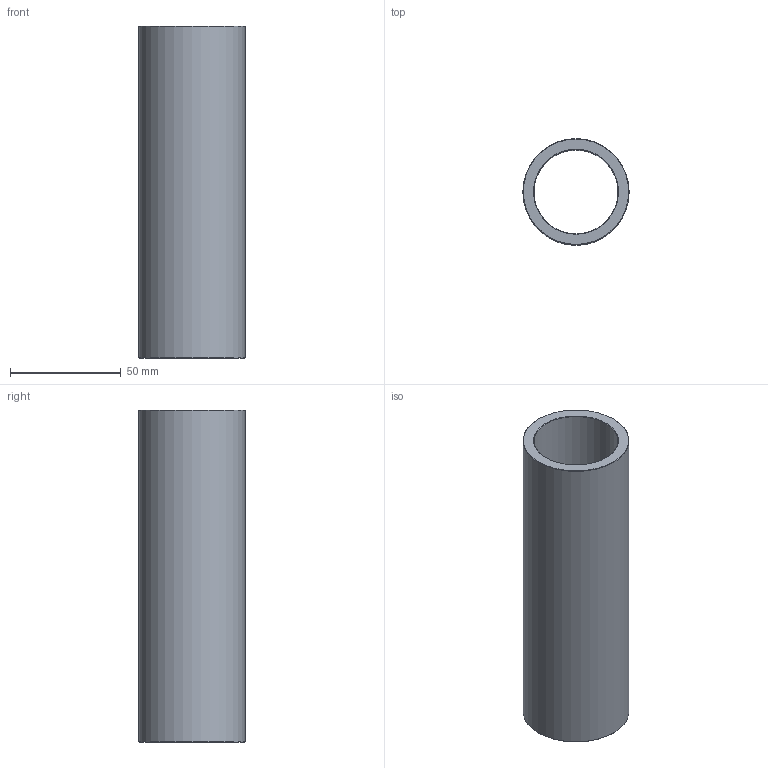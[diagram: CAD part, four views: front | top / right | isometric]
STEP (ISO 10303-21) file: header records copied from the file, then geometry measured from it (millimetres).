
FILE_DESCRIPTION(('STEP AP203'),'1');
FILE_NAME('C:/Users/Rodrigo/Desktop/GA5.038.150-1.step','2016-11-07T18:04:02',(' '),(' '),'Spatial InterOp 3D',' ',' ');
FILE_SCHEMA(('CONFIG_CONTROL_DESIGN'));
Length unit declared in the file: millimetre
Products named in the file (1): 1
Bounding box: 48 x 48 x 150 mm (x, y, z)
Volume: 101305.6 mm3; surface area: 41814.1 mm2
Topology: 1 solids, 1 shells, 8 faces, 14 edges, 8 vertices
Faces by surface type: cone 4, cylinder 2, plane 2
Full cylindrical faces by diameter (mm): 38 x1, 48 x1
Entity records: 212 total; most frequent: DIRECTION 34, CARTESIAN_POINT 25, AXIS2_PLACEMENT_3D 17, EDGE_LOOP 16, ORIENTED_EDGE 16, FACE_OUTER_BOUND 10, ADVANCED_FACE 8, EDGE_CURVE 8
